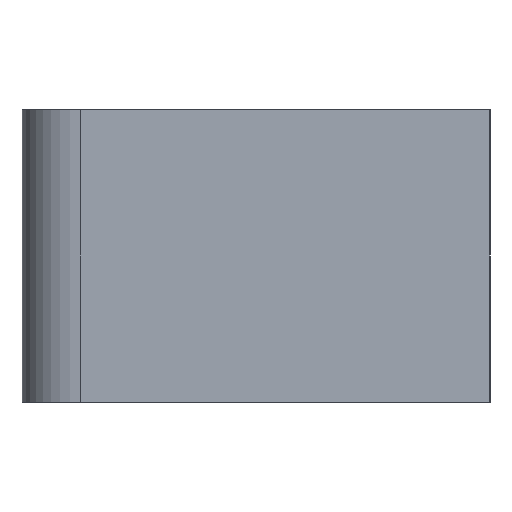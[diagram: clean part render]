
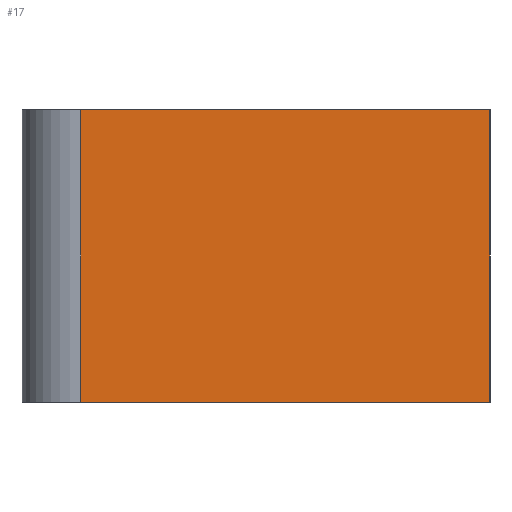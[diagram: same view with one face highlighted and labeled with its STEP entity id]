
A CAD part, left-side view. The second image highlights one B-rep face of the part: STEP entity #17.
In plain terms, the highlighted planar face has unit normal (-1, 0, 0).
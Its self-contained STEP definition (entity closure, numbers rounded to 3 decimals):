
#17 = ADVANCED_FACE('',(#18),#32,.F.);
#18 = FACE_BOUND('',#19,.F.);
#19 = EDGE_LOOP('',(#20,#55,#83,#111));
#20 = ORIENTED_EDGE('',*,*,#21,.F.);
#21 = EDGE_CURVE('',#22,#24,#26,.T.);
#22 = VERTEX_POINT('',#23);
#23 = CARTESIAN_POINT('',(-226.013,0.15,100.));
#24 = VERTEX_POINT('',#25);
#25 = CARTESIAN_POINT('',(-226.013,140.131,100.));
#26 = SURFACE_CURVE('',#27,(#31,#43),.PCURVE_S1.);
#27 = LINE('',#28,#29);
#28 = CARTESIAN_POINT('',(-226.013,-160.131,100.));
#29 = VECTOR('',#30,1.);
#30 = DIRECTION('',(0.,1.,0.));
#31 = PCURVE('',#32,#37);
#32 = PLANE('',#33);
#33 = AXIS2_PLACEMENT_3D('',#34,#35,#36);
#34 = CARTESIAN_POINT('',(-226.013,-160.131,0.));
#35 = DIRECTION('',(1.,0.,0.));
#36 = DIRECTION('',(0.,0.,1.));
#37 = DEFINITIONAL_REPRESENTATION('',(#38),#42);
#38 = LINE('',#39,#40);
#39 = CARTESIAN_POINT('',(100.,0.));
#40 = VECTOR('',#41,1.);
#41 = DIRECTION('',(0.,-1.));
#42 = ( GEOMETRIC_REPRESENTATION_CONTEXT(2) 
PARAMETRIC_REPRESENTATION_CONTEXT() REPRESENTATION_CONTEXT('2D SPACE',''
  ) );
#43 = PCURVE('',#44,#49);
#44 = PLANE('',#45);
#45 = AXIS2_PLACEMENT_3D('',#46,#47,#48);
#46 = CARTESIAN_POINT('',(-226.013,-160.131,100.));
#47 = DIRECTION('',(0.,0.,1.));
#48 = DIRECTION('',(1.,0.,-0.));
#49 = DEFINITIONAL_REPRESENTATION('',(#50),#54);
#50 = LINE('',#51,#52);
#51 = CARTESIAN_POINT('',(0.,0.));
#52 = VECTOR('',#53,1.);
#53 = DIRECTION('',(0.,1.));
#54 = ( GEOMETRIC_REPRESENTATION_CONTEXT(2) 
PARAMETRIC_REPRESENTATION_CONTEXT() REPRESENTATION_CONTEXT('2D SPACE',''
  ) );
#55 = ORIENTED_EDGE('',*,*,#56,.F.);
#56 = EDGE_CURVE('',#57,#22,#59,.T.);
#57 = VERTEX_POINT('',#58);
#58 = CARTESIAN_POINT('',(-226.013,0.15,0.));
#59 = SURFACE_CURVE('',#60,(#64,#71),.PCURVE_S1.);
#60 = LINE('',#61,#62);
#61 = CARTESIAN_POINT('',(-226.013,0.15,0.));
#62 = VECTOR('',#63,1.);
#63 = DIRECTION('',(0.,0.,1.));
#64 = PCURVE('',#32,#65);
#65 = DEFINITIONAL_REPRESENTATION('',(#66),#70);
#66 = LINE('',#67,#68);
#67 = CARTESIAN_POINT('',(0.,-160.281));
#68 = VECTOR('',#69,1.);
#69 = DIRECTION('',(1.,0.));
#70 = ( GEOMETRIC_REPRESENTATION_CONTEXT(2) 
PARAMETRIC_REPRESENTATION_CONTEXT() REPRESENTATION_CONTEXT('2D SPACE',''
  ) );
#71 = PCURVE('',#72,#77);
#72 = PLANE('',#73);
#73 = AXIS2_PLACEMENT_3D('',#74,#75,#76);
#74 = CARTESIAN_POINT('',(-226.013,0.15,0.));
#75 = DIRECTION('',(-0.,1.,0.));
#76 = DIRECTION('',(0.,0.,1.));
#77 = DEFINITIONAL_REPRESENTATION('',(#78),#82);
#78 = LINE('',#79,#80);
#79 = CARTESIAN_POINT('',(0.,0.));
#80 = VECTOR('',#81,1.);
#81 = DIRECTION('',(1.,0.));
#82 = ( GEOMETRIC_REPRESENTATION_CONTEXT(2) 
PARAMETRIC_REPRESENTATION_CONTEXT() REPRESENTATION_CONTEXT('2D SPACE',''
  ) );
#83 = ORIENTED_EDGE('',*,*,#84,.T.);
#84 = EDGE_CURVE('',#57,#85,#87,.T.);
#85 = VERTEX_POINT('',#86);
#86 = CARTESIAN_POINT('',(-226.013,140.131,0.));
#87 = SURFACE_CURVE('',#88,(#92,#99),.PCURVE_S1.);
#88 = LINE('',#89,#90);
#89 = CARTESIAN_POINT('',(-226.013,-160.131,0.));
#90 = VECTOR('',#91,1.);
#91 = DIRECTION('',(0.,1.,0.));
#92 = PCURVE('',#32,#93);
#93 = DEFINITIONAL_REPRESENTATION('',(#94),#98);
#94 = LINE('',#95,#96);
#95 = CARTESIAN_POINT('',(0.,0.));
#96 = VECTOR('',#97,1.);
#97 = DIRECTION('',(0.,-1.));
#98 = ( GEOMETRIC_REPRESENTATION_CONTEXT(2) 
PARAMETRIC_REPRESENTATION_CONTEXT() REPRESENTATION_CONTEXT('2D SPACE',''
  ) );
#99 = PCURVE('',#100,#105);
#100 = PLANE('',#101);
#101 = AXIS2_PLACEMENT_3D('',#102,#103,#104);
#102 = CARTESIAN_POINT('',(-226.013,-160.131,0.));
#103 = DIRECTION('',(0.,0.,1.));
#104 = DIRECTION('',(1.,0.,-0.));
#105 = DEFINITIONAL_REPRESENTATION('',(#106),#110);
#106 = LINE('',#107,#108);
#107 = CARTESIAN_POINT('',(0.,0.));
#108 = VECTOR('',#109,1.);
#109 = DIRECTION('',(0.,1.));
#110 = ( GEOMETRIC_REPRESENTATION_CONTEXT(2) 
PARAMETRIC_REPRESENTATION_CONTEXT() REPRESENTATION_CONTEXT('2D SPACE',''
  ) );
#111 = ORIENTED_EDGE('',*,*,#112,.T.);
#112 = EDGE_CURVE('',#85,#24,#113,.T.);
#113 = SURFACE_CURVE('',#114,(#118,#125),.PCURVE_S1.);
#114 = LINE('',#115,#116);
#115 = CARTESIAN_POINT('',(-226.013,140.131,0.));
#116 = VECTOR('',#117,1.);
#117 = DIRECTION('',(0.,0.,1.));
#118 = PCURVE('',#32,#119);
#119 = DEFINITIONAL_REPRESENTATION('',(#120),#124);
#120 = LINE('',#121,#122);
#121 = CARTESIAN_POINT('',(0.,-300.263));
#122 = VECTOR('',#123,1.);
#123 = DIRECTION('',(1.,0.));
#124 = ( GEOMETRIC_REPRESENTATION_CONTEXT(2) 
PARAMETRIC_REPRESENTATION_CONTEXT() REPRESENTATION_CONTEXT('2D SPACE',''
  ) );
#125 = PCURVE('',#126,#131);
#126 = CYLINDRICAL_SURFACE('',#127,20.);
#127 = AXIS2_PLACEMENT_3D('',#128,#129,#130);
#128 = CARTESIAN_POINT('',(-206.013,140.131,0.));
#129 = DIRECTION('',(0.,0.,1.));
#130 = DIRECTION('',(-1.,-0.,0.));
#131 = DEFINITIONAL_REPRESENTATION('',(#132),#136);
#132 = LINE('',#133,#134);
#133 = CARTESIAN_POINT('',(6.283,0.));
#134 = VECTOR('',#135,1.);
#135 = DIRECTION('',(-0.,1.));
#136 = ( GEOMETRIC_REPRESENTATION_CONTEXT(2) 
PARAMETRIC_REPRESENTATION_CONTEXT() REPRESENTATION_CONTEXT('2D SPACE',''
  ) );
